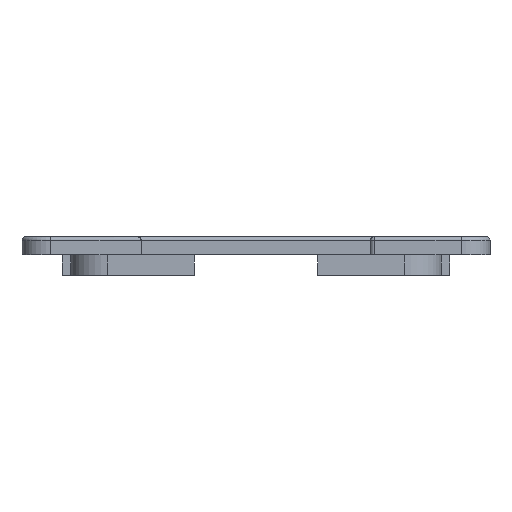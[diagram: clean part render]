
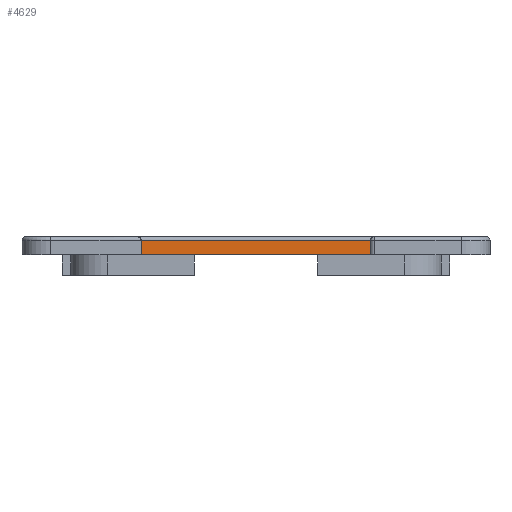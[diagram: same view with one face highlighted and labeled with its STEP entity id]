
A CAD part, left-side view. The second image highlights one B-rep face of the part: STEP entity #4629.
In plain terms, the highlighted planar face has unit normal (-1, 0, 0).
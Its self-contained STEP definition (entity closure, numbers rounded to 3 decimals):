
#582=LINE('',#7979,#1016);
#615=LINE('',#8110,#1049);
#654=LINE('',#8216,#1088);
#655=LINE('',#8217,#1089);
#1016=VECTOR('',#5942,10.);
#1049=VECTOR('',#6101,10.);
#1088=VECTOR('',#6236,10.);
#1089=VECTOR('',#6237,10.);
#1206=PLANE('',#5033);
#1462=FACE_OUTER_BOUND('',#1738,.T.);
#1738=EDGE_LOOP('',(#4308,#4309,#4310,#4311));
#2270=VERTEX_POINT('',#7976);
#2271=VERTEX_POINT('',#7978);
#2305=VERTEX_POINT('',#8107);
#2306=VERTEX_POINT('',#8109);
#2873=EDGE_CURVE('',#2270,#2271,#582,.T.);
#2939=EDGE_CURVE('',#2305,#2306,#615,.F.);
#2993=EDGE_CURVE('',#2270,#2306,#654,.F.);
#2994=EDGE_CURVE('',#2305,#2271,#655,.F.);
#4308=ORIENTED_EDGE('',*,*,#2873,.F.);
#4309=ORIENTED_EDGE('',*,*,#2993,.T.);
#4310=ORIENTED_EDGE('',*,*,#2939,.F.);
#4311=ORIENTED_EDGE('',*,*,#2994,.T.);
#4629=ADVANCED_FACE('',(#1462),#1206,.F.);
#5033=AXIS2_PLACEMENT_3D('',#8215,#6234,#6235);
#5942=DIRECTION('',(0.,-1.,0.));
#6101=DIRECTION('',(0.,-1.,0.));
#6234=DIRECTION('center_axis',(1.,0.,0.));
#6235=DIRECTION('ref_axis',(0.,0.,-1.));
#6236=DIRECTION('',(0.,0.,1.));
#6237=DIRECTION('',(0.,0.,-1.));
#7976=CARTESIAN_POINT('',(0.5,40.445,4.7));
#7978=CARTESIAN_POINT('',(0.5,12.6,4.7));
#7979=CARTESIAN_POINT('',(0.5,14.268,4.7));
#8107=CARTESIAN_POINT('',(0.5,12.6,3.));
#8109=CARTESIAN_POINT('',(0.5,40.445,3.));
#8110=CARTESIAN_POINT('',(0.5,37.768,3.));
#8215=CARTESIAN_POINT('Origin',(0.5,25.535,2.6));
#8216=CARTESIAN_POINT('',(0.5,40.445,3.35));
#8217=CARTESIAN_POINT('',(0.5,12.6,3.35));
